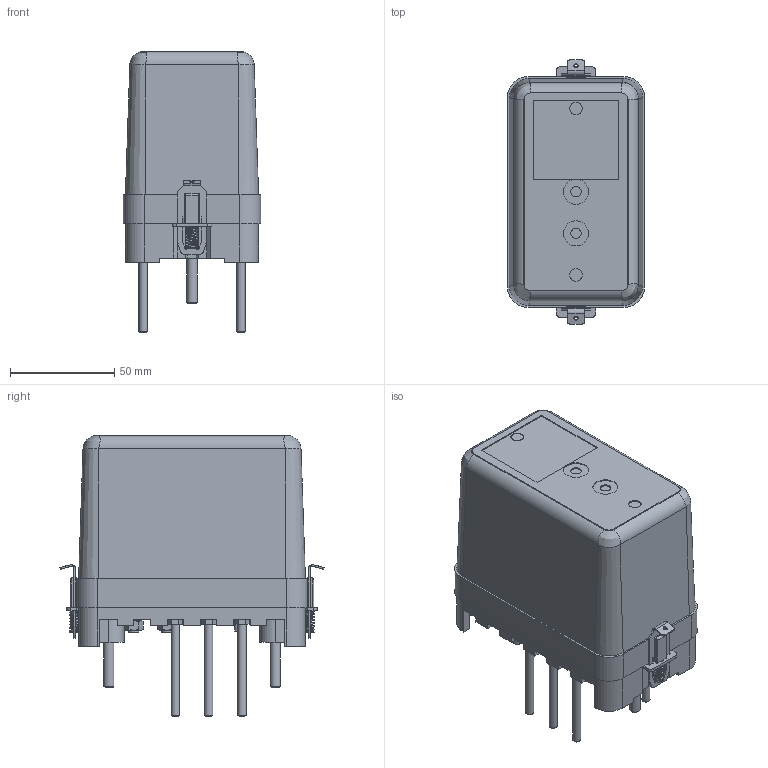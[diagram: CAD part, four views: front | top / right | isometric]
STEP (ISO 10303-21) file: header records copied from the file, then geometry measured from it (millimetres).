
FILE_DESCRIPTION(('STEP AP214'), '1');
FILE_NAME('ÂÓ200 ç.ï.øï', '', ('UNSPECIFIED'), ('UNSPECIFIED'), 'ASCON STEP Converter 1.3', 'ASCON Math Kernel', '');
FILE_SCHEMA(('AUTOMOTIVE_DESIGN { 1 0 10303 214 3 1 1}'));
Length unit declared in the file: millimetre
Bounding box: 66 x 127 x 135.5 mm (x, y, z)
Volume: 148007.1 mm3; surface area: 99591 mm2
Topology: 1 solids, 1 shells, 916 faces, 2438 edges, 1568 vertices
Faces by surface type: plane 618, cylinder 206, cone 51, torus 25, bspline 14, sphere 2
Full cylindrical faces by diameter (mm): 2 x2, 3 x2, 3.2 x1, 3.242 x6, 3.4 x1, 3.5 x2, 4 x12, 5 x8, 5.3 x2, 5.5 x4, 6 x3, 9 x2, 9.5 x2, 12 x2
Entity records: 47536 total; most frequent: CARTESIAN_POINT 17820, ORIENTED_EDGE 4634, DIRECTION 4463, EDGE_CURVE 2317, LINE 1605, VECTOR 1605, VERTEX_POINT 1561, AXIS2_PLACEMENT_3D 1429
